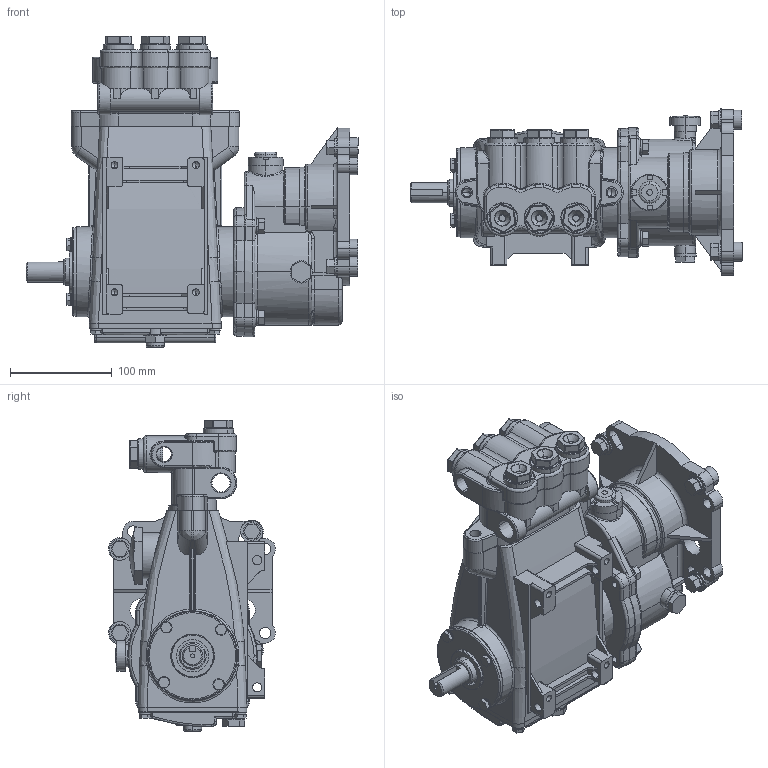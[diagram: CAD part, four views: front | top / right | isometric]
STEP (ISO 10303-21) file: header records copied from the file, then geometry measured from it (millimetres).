
FILE_DESCRIPTION (( 'STEP AP214' ), '1' );
FILE_NAME ('45G1.STEP', '2017-09-28T08:26:05', ( '' ), ( '' ), 'SwSTEP 2.0', 'SolidWorks 2017', '' );
FILE_SCHEMA (( 'AUTOMOTIVE_DESIGN' ));
Length unit declared in the file: millimetre
Products named in the file (3): 008065; 45G1; 000045
Assembly tree (2 placements, depth 2):
  45G1
    000045
    008065
Bounding box: 326.26 x 164.13 x 306.27 mm (x, y, z)
Volume: 4687346.6 mm3; surface area: 394006.7 mm2
Topology: 9 solids, 9 shells, 1949 faces, 4616 edges, 2768 vertices
Faces by surface type: plane 806, cylinder 674, bspline 368, cone 51, torus 48, sphere 2
Entity records: 87926 total; most frequent: CARTESIAN_POINT 27505, ORIENTED_EDGE 9128, DIRECTION 8945, EDGE_CURVE 4564, AXIS2_PLACEMENT_3D 3456, VERTEX_POINT 2768, EDGE_LOOP 2120, LINE 2033
